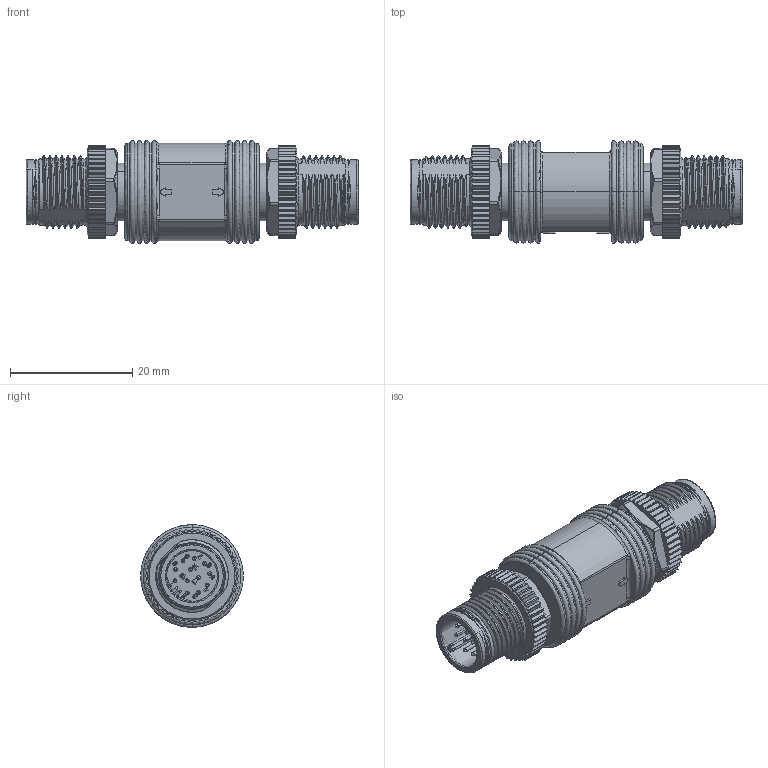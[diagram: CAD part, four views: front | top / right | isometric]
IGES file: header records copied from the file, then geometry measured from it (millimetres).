
Start section: SolidWorks IGES file using analytic representation for surfaces
Global section: file name: C:\TeknicPDM\etherpath cpm-s\etherpath cpm-s customer files\EC Customer Models\CPMS-JNR-NET-AA.IGS; native system: SolidWorks 2020; preprocessor: SolidWorks 2020; author: mike_berezny; date: 240403.143918; units: millimetre
Bounding box: 54.4 x 16.8 x 16.8 mm (x, y, z)
Surface area: 6047.4 mm2 (no closed solid volume)
Topology: 0 solids, 0 shells, 1477 faces, 11075 edges, 11027 vertices
Faces by surface type: bspline 1477
